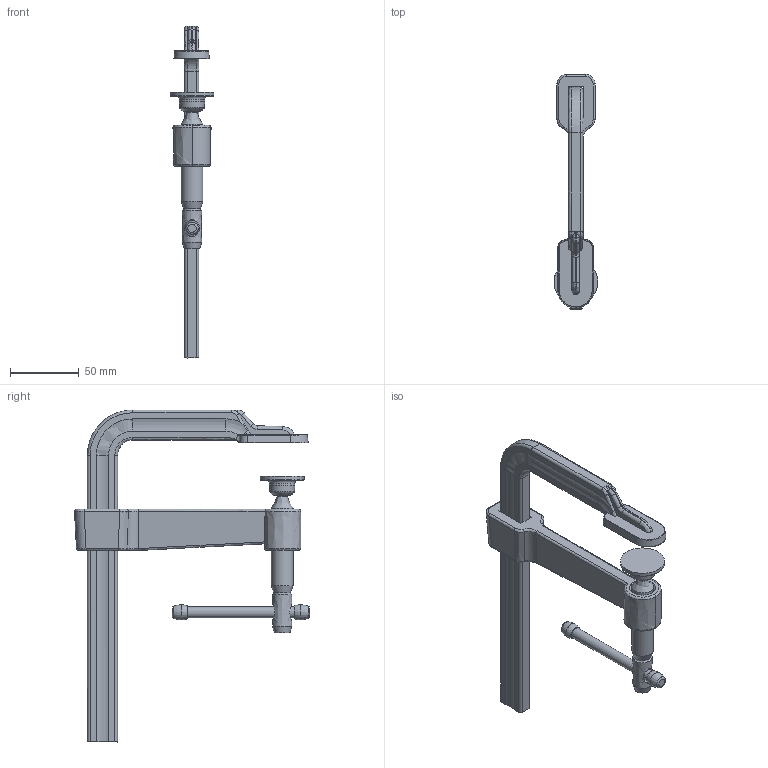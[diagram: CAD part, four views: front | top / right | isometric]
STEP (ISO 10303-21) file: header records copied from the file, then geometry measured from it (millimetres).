
FILE_DESCRIPTION( ('This file contains a STEP AP42 implementation' ,'as created by ZW3D STEP Interface translator.') ,'2;1' );
FILE_NAME( 'SQ-4.stp' ,'151019.15 020', (''), ('ZWCAD Software Co.'), 'Version 1.0', 'ZW3D to STEP translator', '' );
FILE_SCHEMA( ('CONFIG_CONTROL_DESIGN') );
Length unit declared in the file: millimetre
Products named in the file (7): 0; SQ-4; Festbügel SQ-4; Gleitbügel SQ-4; Knebelspindel_16x4; Knebel Gr20; Druckp-Awk
Assembly tree (5 placements, depth 2):
  0
  SQ-4
    Festbügel SQ-4
    Gleitbügel SQ-4
    Knebelspindel_16x4
    Knebel Gr20
    Druckp-Awk
Bounding box: 31.96 x 171.31 x 242 mm (x, y, z)
Volume: 84784.1 mm3; surface area: 52607.5 mm2
Topology: 4 solids, 5 shells, 181 faces, 426 edges, 253 vertices
Faces by surface type: bspline 181
Entity records: 9518 total; most frequent: CARTESIAN_POINT 6751, ORIENTED_EDGE 843, EDGE_CURVE 423, B_SPLINE_CURVE_WITH_KNOTS 269, VERTEX_POINT 253, EDGE_LOOP 189, FACE_OUTER_BOUND 181, ADVANCED_FACE 181
